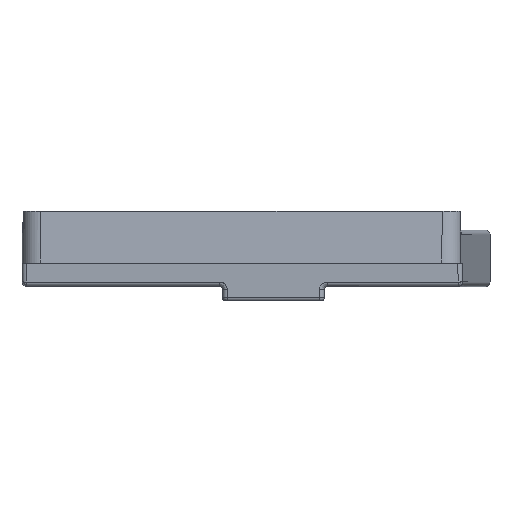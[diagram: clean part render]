
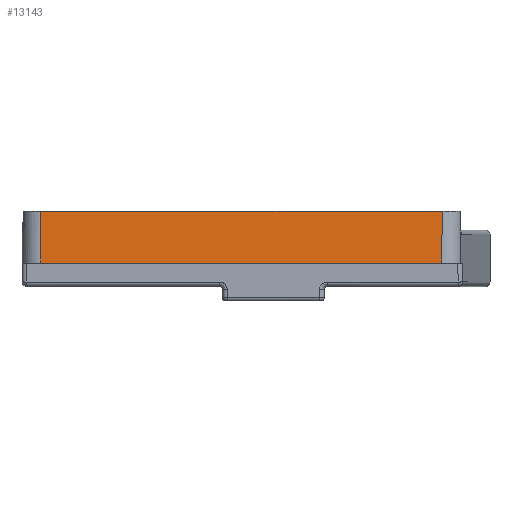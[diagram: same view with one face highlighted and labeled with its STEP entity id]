
A CAD part, left-side view. The second image highlights one B-rep face of the part: STEP entity #13143.
In plain terms, the highlighted planar face has unit normal (-0.999, 0, 0.035).
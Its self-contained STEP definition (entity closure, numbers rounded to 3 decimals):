
#2147 = LINE ( 'NONE', #5985, #4030 ) ;
#2302 = DIRECTION ( 'NONE',  ( -0.035, 0.005, -0.999 ) ) ;
#2893 = DIRECTION ( 'NONE',  ( 0.035, 0., 0.999 ) ) ;
#2991 = VECTOR ( 'NONE', #12220, 1000. ) ;
#2996 = CARTESIAN_POINT ( 'NONE',  ( 615.824, 79.67, 63.74 ) ) ;
#3058 = LINE ( 'NONE', #11912, #4663 ) ;
#3526 = ORIENTED_EDGE ( 'NONE', *, *, #6752, .F. ) ;
#3592 = EDGE_LOOP ( 'NONE', ( #12467, #8173, #3526, #16670 ) ) ;
#3676 = CARTESIAN_POINT ( 'NONE',  ( 615.824, 85.768, 63.74 ) ) ;
#4030 = VECTOR ( 'NONE', #19853, 1000. ) ;
#4663 = VECTOR ( 'NONE', #17647, 1000. ) ;
#5985 = CARTESIAN_POINT ( 'NONE',  ( 614.763, 128.41, 33.364 ) ) ;
#6752 = EDGE_CURVE ( 'NONE', #17890, #7091, #3058, .T. ) ;
#7091 = VERTEX_POINT ( 'NONE', #18631 ) ;
#7447 = VERTEX_POINT ( 'NONE', #3676 ) ;
#8068 = CARTESIAN_POINT ( 'NONE',  ( 615.824, 79.67, 63.74 ) ) ;
#8173 = ORIENTED_EDGE ( 'NONE', *, *, #19297, .F. ) ;
#8913 = VECTOR ( 'NONE', #2302, 1000. ) ;
#9375 = EDGE_CURVE ( 'NONE', #11731, #7447, #20685, .T. ) ;
#9394 = AXIS2_PLACEMENT_3D ( 'NONE', #8068, #20173, #2893 ) ;
#11731 = VERTEX_POINT ( 'NONE', #15333 ) ;
#11912 = CARTESIAN_POINT ( 'NONE',  ( 615.632, 79.67, 58.24 ) ) ;
#12115 = FACE_OUTER_BOUND ( 'NONE', #3592, .T. ) ;
#12220 = DIRECTION ( 'NONE',  ( 0., -1., 0. ) ) ;
#12467 = ORIENTED_EDGE ( 'NONE', *, *, #9375, .F. ) ;
#13143 = ADVANCED_FACE ( 'NONE', ( #12115 ), #20097, .T. ) ;
#15333 = CARTESIAN_POINT ( 'NONE',  ( 615.824, 128.41, 63.74 ) ) ;
#15709 = CARTESIAN_POINT ( 'NONE',  ( 615.632, 85.797, 58.24 ) ) ;
#16670 = ORIENTED_EDGE ( 'NONE', *, *, #20627, .F. ) ;
#17647 = DIRECTION ( 'NONE',  ( 0., 1., 0. ) ) ;
#17890 = VERTEX_POINT ( 'NONE', #15709 ) ;
#17891 = CARTESIAN_POINT ( 'NONE',  ( 616.308, 85.695, 77.596 ) ) ;
#18631 = CARTESIAN_POINT ( 'NONE',  ( 615.632, 128.41, 58.24 ) ) ;
#18725 = LINE ( 'NONE', #17891, #8913 ) ;
#19297 = EDGE_CURVE ( 'NONE', #7091, #11731, #2147, .T. ) ;
#19853 = DIRECTION ( 'NONE',  ( 0.035, 0., 0.999 ) ) ;
#20097 = PLANE ( 'NONE',  #9394 ) ;
#20173 = DIRECTION ( 'NONE',  ( -0.999, 0., 0.035 ) ) ;
#20627 = EDGE_CURVE ( 'NONE', #7447, #17890, #18725, .T. ) ;
#20685 = LINE ( 'NONE', #2996, #2991 ) ;
